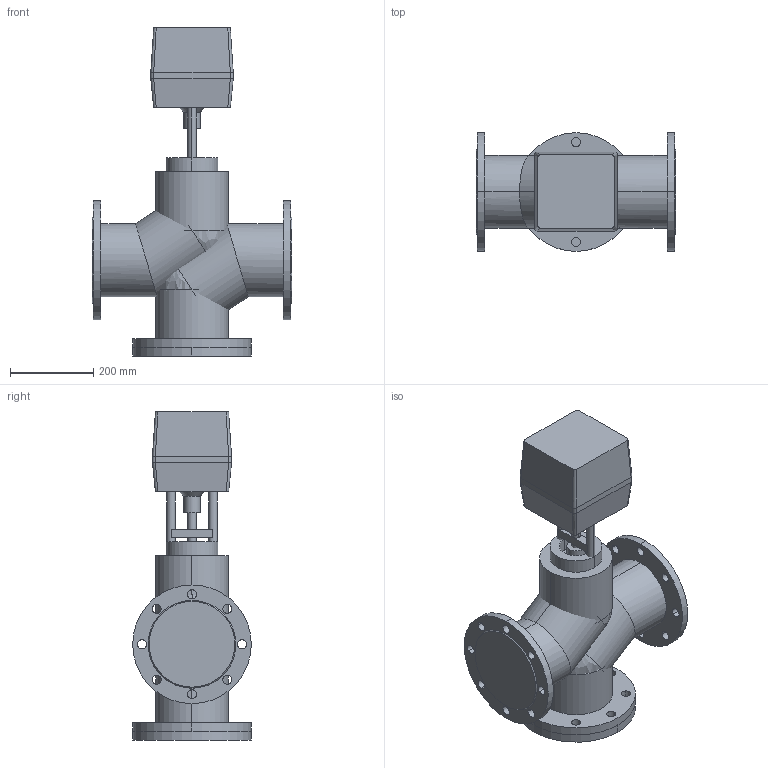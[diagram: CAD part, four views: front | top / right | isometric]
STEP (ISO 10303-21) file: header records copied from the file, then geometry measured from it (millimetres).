
FILE_DESCRIPTION(/* description */ (''),/* implementation_level */ '2;1');
FILE_NAME(/* name */ 'ТРК DN150 PN 1.6 МПа LEA 10000',/* time_stamp */ '2026-07-14T23:05:47+03:00',/* author */ (''),/* organization */ (''),/* preprocessor_version */ 'ST-DEVELOPER v20',/* originating_system */ '',/* authorisation */ '');
FILE_SCHEMA (('AP242_MANAGED_MODEL_BASED_3D_ENGINEERING_MIM_LF { 1 0 10303 442 1 1 4 }'));
Length unit declared in the file: millimetre
Products named in the file (14): TopLevelAssembly; Выдавливание; Модификатор; Модификатор_1; Выдавливание_
1; Выдавливание_
2; Вращение; Выдавливание_
3; Выдавливание_
4; 1600; Переход; Объемная геометрия 
присоединена; Полый Выдавливание; Объемная геометрия 
присоединена_1
Assembly tree (13 placements, depth 2):
  TopLevelAssembly
    Выдавливание
    Модификатор
    Модификатор_1
    Выдавливание_
1
    Выдавливание_
2
    Вращение
    Выдавливание_
3
    Выдавливание_
4
    1600
    Переход
    Объемная геометрия 
присоединена
    Полый Выдавливание
    Объемная геометрия 
присоединена_1
Bounding box: 480 x 285 x 788 mm (x, y, z)
Volume: 34691085.9 mm3; surface area: 1867959 mm2
Topology: 23 solids, 23 shells, 182 faces, 408 edges, 266 vertices
Faces by surface type: cylinder 100, plane 64, bspline 14, cone 4
Entity records: 5913 total; most frequent: CARTESIAN_POINT 1173, DIRECTION 1020, ORIENTED_EDGE 800, AXIS2_PLACEMENT_3D 425, EDGE_CURVE 400, VERTEX_POINT 266, EDGE_LOOP 240, CIRCLE 222
